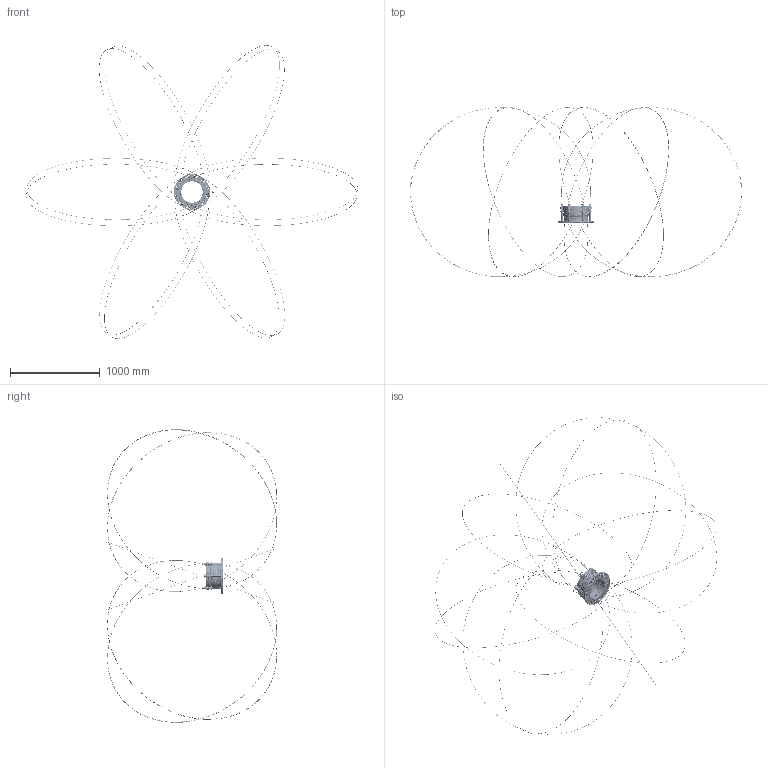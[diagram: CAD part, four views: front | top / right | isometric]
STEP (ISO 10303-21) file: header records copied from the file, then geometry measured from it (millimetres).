
FILE_DESCRIPTION((''),'2;1');
FILE_NAME('13383_11','2014-12-15T',('rburgess'),('Viking Johnson'),'PRO/ENGINEER BY PARAMETRIC TECHNOLOGY CORPORATION, 2006020','PRO/ENGINEER BY PARAMETRIC TECHNOLOGY CORPORATION, 2006020','');
FILE_SCHEMA(('CONFIG_CONTROL_DESIGN'));
Products named in the file (1): 13383_11
Bounding box: 3704.35 x 1893.9 x 3275.75 mm (x, y, z)
Surface area: 3169335.6 mm2 (no closed solid volume)
Topology: 0 solids, 0 shells, 6792 faces, 36274 edges, 35671 vertices
Faces by surface type: bspline 5913, torus 755, sphere 124
Entity records: 508078 total; most frequent: CARTESIAN_POINT 193283, DIRECTION 49052, TRIMMED_CURVE 43731, VECTOR 40168, LINE 40168, DEFINITIONAL_REPRESENTATION 35014, PCURVE 35014, COMPOSITE_CURVE_SEGMENT 35014
